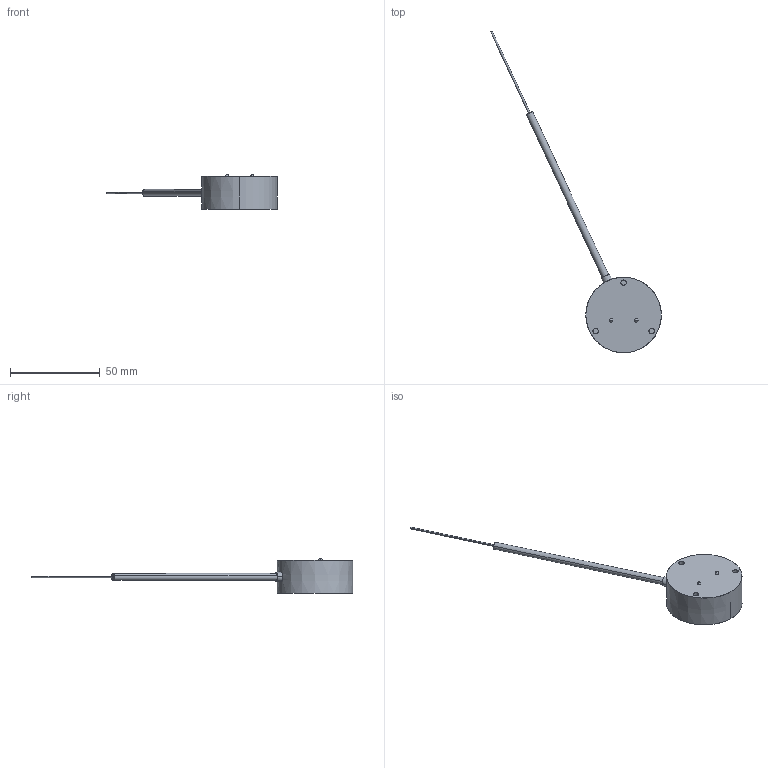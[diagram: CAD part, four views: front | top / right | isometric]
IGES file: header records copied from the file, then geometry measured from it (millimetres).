
Start section: SolidWorks IGES file using analytic representation for surfaces
Global section: file name: C:\Users\Toshiba\Desktop\SU10.IGS; native system: SolidWorks 2014; preprocessor: SolidWorks 2014; author: Toshiba; date: 160621.093541; units: metre
Bounding box: 94.99 x 178.91 x 19.3 mm (x, y, z)
Surface area: 6731.1 mm2 (no closed solid volume)
Topology: 0 solids, 0 shells, 27 faces, 638 edges, 634 vertices
Faces by surface type: revolution 14, bspline 13
